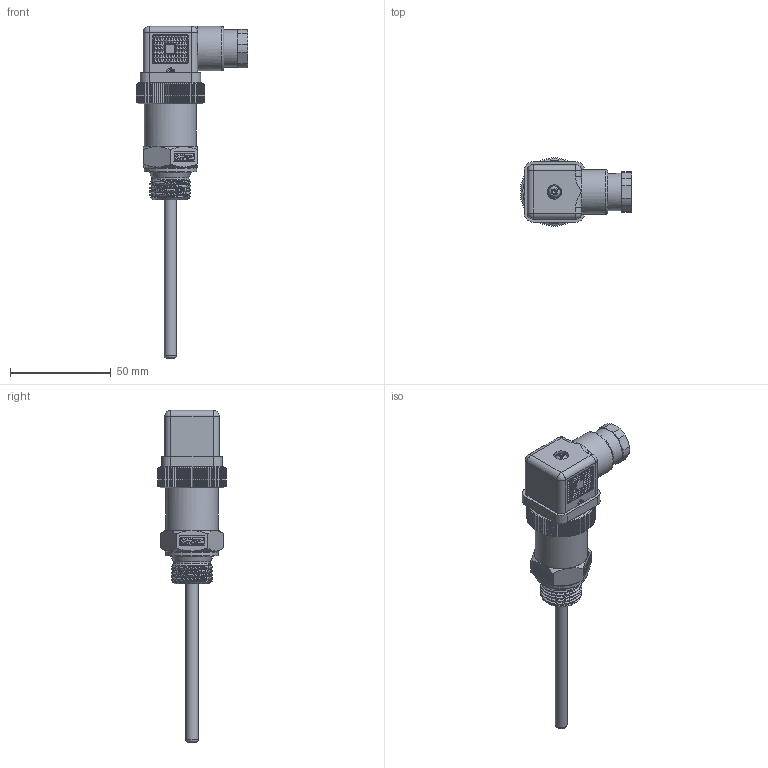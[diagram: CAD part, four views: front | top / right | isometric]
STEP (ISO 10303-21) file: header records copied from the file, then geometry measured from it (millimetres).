
FILE_DESCRIPTION(/* description */ (''),/* implementation_level */ '2;1');
FILE_NAME(/* name */ 'c:\worker\convert-fusion-r02\tmp\job-1\50\output\files\efc96e71-cb32-4da9-b6fe-a6a043e7fa1f\da27953d-b5ee-44ff-872e-c20361ea9d51.stp',/* time_stamp */ '2022-04-21T07:26:58+00:00',/* author */ (''),/* organization */ (''),/* preprocessor_version */ 'ST-DEVELOPER v18.1',/* originating_system */ 'Autodesk Translation Framework v10.14.0.1471',/* authorisation */ '');
FILE_SCHEMA (('AUTOMOTIVE_DESIGN { 1 0 10303 214 3 1 1 }'));
Products named in the file (3): MWT_400; 43_1707_005_04; 43_1702_002_04
Assembly tree (2 placements, depth 2):
  MWT_400
    43_1707_005_04
    43_1702_002_04
Bounding box: 55.49 x 33.98 x 164.8 mm (x, y, z)
Volume: 43353.5 mm3; surface area: 25514.2 mm2
Topology: 4 solids, 4 shells, 3603 faces, 8009 edges, 4530 vertices
Faces by surface type: plane 2813, bspline 388, cylinder 298, cone 67, torus 24, sphere 13
Full cylindrical faces by diameter (mm): 1.65 x4, 1.7 x1, 2 x1, 2.2 x1, 2.5 x3, 2.6 x1, 3 x1, 3.1 x1, 3.5 x1, 4.1 x1, 4.5 x1, 5 x1, 6 x2, 7 x1, 7.2 x1, 7.8 x1, 12 x1, 18.6 x1, 18.631 x4, 20.5 x3, 21.8 x1, 22 x3, 24.4 x1, 25.5 x1, 25.85 x1, 26 x1
Entity records: 103001 total; most frequent: CARTESIAN_POINT 27618, ORIENTED_EDGE 15988, DIRECTION 14276, EDGE_CURVE 7994, LINE 5872, VECTOR 5872, VERTEX_POINT 4530, AXIS2_PLACEMENT_3D 4202
